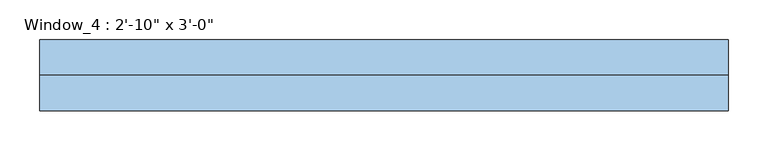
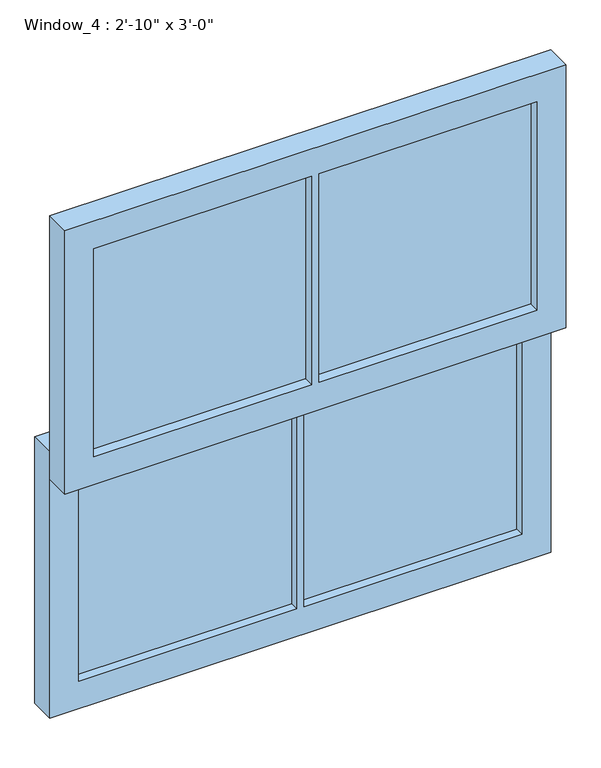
"""IFC4 building model written with IfcOpenShell, lengths in millimetres: window geometry."""

from ifc_helpers import new_model, si_unit, frame, origin, place, context, project, spatial, polyline, outline, extrude, source, transform, mapped, element, save


def window_6ee6a00c(model_context):
    return source(origin(), model_context, "Body", "SweptSolid", [
        extrude(outline(polyline([(-6.35, 44.45), (-6.35, 37.5146408), (-381.8, 37.5146408), (-381.8, 44.45), (-6.35, 44.45)])), frame((0.0, 0.0, 1323.175), z_axis=(0.0, 0.0, 1.0), x_axis=(1.0, 0.0, 0.0)), (0.0, 0.0, 1.0), 379.425),
        extrude(outline(polyline([(381.8, 44.45), (381.8, 37.5146408), (6.35, 37.5146408), (6.35, 44.45), (381.8, 44.45)])), frame((0.0, 0.0, 1323.175), z_axis=(0.0, 0.0, 1.0), x_axis=(1.0, 0.0, 0.0)), (0.0, 0.0, 1.0), 379.425),
        extrude(outline(polyline([(1752.6, -431.8), (1273.175, -431.8), (1273.175, 431.8), (1752.6, 431.8), (1752.6, -431.8)]), holes=[polyline([(1702.6, 6.35), (1702.6, 381.8), (1323.175, 381.8), (1323.175, 6.35), (1702.6, 6.35)]), polyline([(1323.175, -381.8), (1702.6, -381.8), (1702.6, -6.35), (1323.175, -6.35), (1323.175, -381.8)])]), frame((0.0, 19.05, 0.0), z_axis=(0.0, 1.0, 0.0), x_axis=(0.0, 0.0, 1.0)), (0.0, 0.0, 1.0), 44.45),
        extrude(outline(polyline([(6.35, 79.375), (6.35, 92.075), (381.8, 92.075), (381.8, 79.375), (6.35, 79.375)])), frame((0.0, 0.0, 888.2), z_axis=(0.0, 0.0, 1.0), x_axis=(1.0, 0.0, 0.0)), (0.0, 0.0, 1.0), 384.975),
        extrude(outline(polyline([(-381.8, 79.375), (-381.8, 92.075), (-6.35, 92.075), (-6.35, 79.375), (-381.8, 79.375)])), frame((0.0, 0.0, 888.2), z_axis=(0.0, 0.0, 1.0), x_axis=(1.0, 0.0, 0.0)), (0.0, 0.0, 1.0), 384.975),
        extrude(outline(polyline([(1323.175, -431.8), (838.2, -431.8), (838.2, 431.8), (1323.175, 431.8), (1323.175, -431.8)]), holes=[polyline([(888.2, -381.8), (1273.175, -381.8), (1273.175, -6.35), (888.2, -6.35), (888.2, -381.8)]), polyline([(1273.175, 6.35), (1273.175, 381.8), (888.2, 381.8), (888.2, 6.35), (1273.175, 6.35)])]), frame((0.0, 63.5, 0.0), z_axis=(0.0, 1.0, 0.0), x_axis=(0.0, 0.0, 1.0)), (0.0, 0.0, 1.0), 44.45),
    ])


if __name__ == "__main__":
    model = new_model("IFC4")
    model_context = context("Model", 3, world=origin())
    ifc_project = project(units=[si_unit("LENGTHUNIT", "METRE", prefix="MILLI")], contexts=[model_context])
    site = spatial("IfcSite", under=ifc_project)
    building = spatial("IfcBuilding", under=site)
    placement = place(None, origin())
    window_shape = window_6ee6a00c(model_context)
    element("IfcWindow", 1, ObjectType="Window_4 : 2'-10\" x 3'-0\"", at=placement, inside=building, context=model_context, shape_type="MappedRepresentation", body=[
        mapped(window_shape, transform((0.0, 0.0, 0.0), x_axis=(1.0, 0.0, 0.0), y_axis=(0.0, 1.0, 0.0), z_axis=(0.0, 0.0, 1.0))),
    ])
    save(model, "model.ifc")
